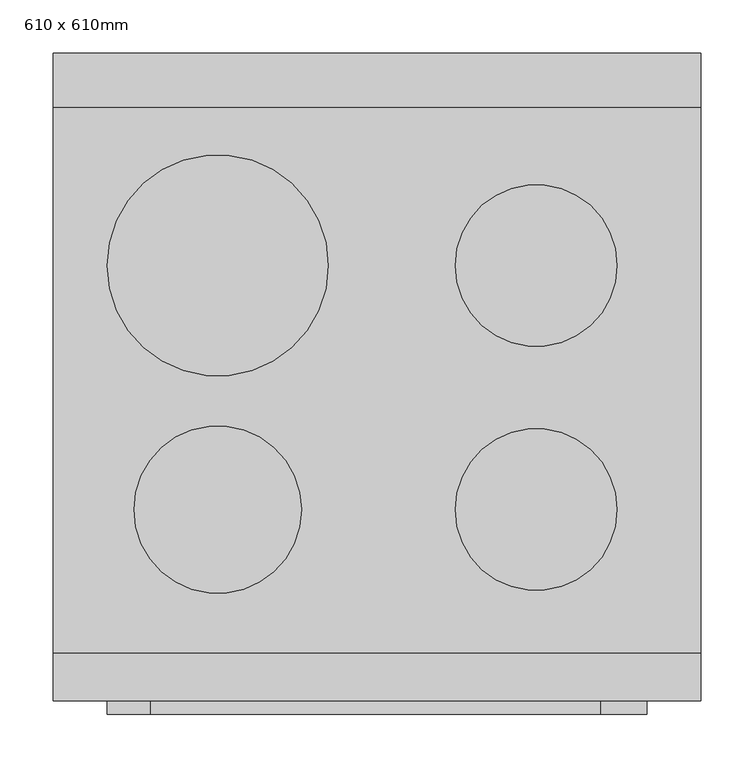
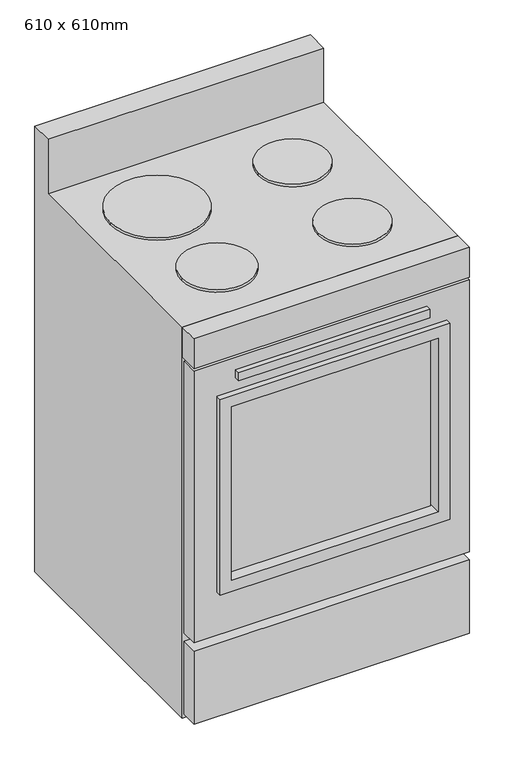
"""IFC4 building model written with IfcOpenShell, lengths in millimetres: proxy geometry, 炉灶 : 610 x 610mm."""

from ifc_helpers import new_model, si_unit, point, frame, frame_2d, origin, place, context, project, spatial, polyline, circle_curve, trimmed, segment, composite_curve, outline, extrude, faceted_brep, source, transform, mapped, element, save


def proxy_610_x_610mm_0f77da38(model_context):
    return source(origin(), model_context, "Body", "SolidModel", [
        faceted_brep([(610.0, 610.0, 1041.4), (610.0, 559.2, 1041.4), (610.0, 559.2, 914.4), (610.0, 45.0, 914.4), (610.0, 45.0, 0.0), (610.0, 610.0, 0.0), (0.0, 559.2, 914.4), (0.0, 559.2, 1041.4), (0.0, 610.0, 1041.4), (0.0, 610.0, 0.0), (0.0, 45.0, 0.0), (0.0, 45.0, 914.4), (584.6, 45.0, 889.2220355), (584.6, 45.0, 254.0), (25.4, 45.0, 254.0), (25.4, 45.0, 889.2220355), (25.4, 584.6, 889.2220355), (584.6, 584.6, 889.2220355), (25.4, 584.6, 254.0), (584.6, 584.6, 254.0)], [[[0, 1, 2, 3, 4, 5]], [[6, 7, 8, 9, 10, 11]], [[8, 0, 5, 9]], [[1, 0, 8, 7]], [[2, 1, 7, 6]], [[3, 11, 10, 4], [12, 13, 14, 15]], [[9, 5, 4, 10]], [[11, 3, 2, 6]], [[12, 15, 16, 17]], [[15, 14, 18, 16]], [[14, 13, 19, 18]], [[13, 12, 17, 19]], [[17, 16, 18, 19]]]),
        extrude(outline(polyline([(515.325, -12.7), (91.687309, -12.7), (91.687309, 0.0), (515.325, 0.0), (515.325, -12.7)])), frame((0.0, 0.0, 791.2768639), z_axis=(0.0, 0.0, 1.0), x_axis=(1.0, 0.0, 0.0)), (0.0, 0.0, 1.0), 19.05),
        extrude(outline(polyline([(531.2, 12.7), (76.2, 12.7), (76.2, 19.05), (531.2, 19.05), (531.2, 12.7)])), frame((0.0, 0.0, 330.2), z_axis=(0.0, 0.0, 1.0), x_axis=(1.0, 0.0, 0.0)), (0.0, 0.0, 1.0), 406.4),
        extrude(outline(polyline([(610.0, 0.0), (0.0, 0.0), (0.0, 45.0), (610.0, 45.0), (610.0, 0.0)])), frame((0.0, 0.0, 844.7720355), z_axis=(0.0, 0.0, 1.0), x_axis=(1.0, 0.0, 0.0)), (0.0, 0.0, 1.0), 69.6279645),
        extrude(outline(polyline([(762.0, 559.2), (762.0, 50.8), (304.8, 50.8), (304.8, 559.2), (762.0, 559.2)]), holes=[polyline([(736.6, 533.8), (330.2, 533.8), (330.2, 76.2), (736.6, 76.2), (736.6, 533.8)])]), frame((0.0, -12.7, 0.0), z_axis=(0.0, 1.0, 0.0), x_axis=(0.0, 0.0, 1.0)), (0.0, 0.0, 1.0), 38.1),
        extrude(outline(composite_curve([segment(trimmed(circle_curve(frame_2d((155.0, 410.0)), 104.2), [point((50.8, 410.0))], [point((259.2, 410.0))], False, "CARTESIAN"), True, "CONTINUOUS"), segment(trimmed(circle_curve(frame_2d((155.0, 410.0)), 104.2), [point((259.2, 410.0))], [point((50.8, 410.0))], False, "CARTESIAN"), True, "CONTINUOUS")], self_intersect=False)), frame((0.0, 0.0, 914.4), z_axis=(0.0, 0.0, 1.0), x_axis=(1.0, 0.0, 0.0)), (0.0, 0.0, 1.0), 6.35),
        extrude(outline(composite_curve([segment(trimmed(circle_curve(frame_2d((455.0, 410.0)), 76.2), [point((378.8, 410.0))], [point((531.2, 410.0))], False, "CARTESIAN"), True, "CONTINUOUS"), segment(trimmed(circle_curve(frame_2d((455.0, 410.0)), 76.2), [point((531.2, 410.0))], [point((378.8, 410.0))], False, "CARTESIAN"), True, "CONTINUOUS")], self_intersect=False)), frame((0.0, 0.0, 914.4), z_axis=(0.0, 0.0, 1.0), x_axis=(1.0, 0.0, 0.0)), (0.0, 0.0, 1.0), 6.35),
        extrude(outline(composite_curve([segment(trimmed(circle_curve(frame_2d((455.0, 180.0)), 76.2), [point((378.8, 180.0))], [point((531.2, 180.0))], False, "CARTESIAN"), True, "CONTINUOUS"), segment(trimmed(circle_curve(frame_2d((455.0, 180.0)), 76.2), [point((531.2, 180.0))], [point((378.8, 180.0))], False, "CARTESIAN"), True, "CONTINUOUS")], self_intersect=False)), frame((0.0, 0.0, 914.4), z_axis=(0.0, 0.0, 1.0), x_axis=(1.0, 0.0, 0.0)), (0.0, 0.0, 1.0), 6.35),
        extrude(outline(composite_curve([segment(trimmed(circle_curve(frame_2d((155.0, 180.0)), 78.8), [point((76.2, 180.0))], [point((233.8, 180.0))], False, "CARTESIAN"), True, "CONTINUOUS"), segment(trimmed(circle_curve(frame_2d((155.0, 180.0)), 78.8), [point((233.8, 180.0))], [point((76.2, 180.0))], False, "CARTESIAN"), True, "CONTINUOUS")], self_intersect=False)), frame((0.0, 0.0, 914.4), z_axis=(0.0, 0.0, 1.0), x_axis=(1.0, 0.0, 0.0)), (0.0, 0.0, 1.0), 6.35),
        extrude(outline(polyline([(838.4220355, 610.0), (838.4220355, 0.0), (203.2, 0.0), (203.2, 610.0), (838.4220355, 610.0)]), holes=[polyline([(762.0, 559.2), (304.8, 559.2), (304.8, 50.8), (762.0, 50.8), (762.0, 559.2)])]), frame((0.0, 0.0, 0.0), z_axis=(0.0, 1.0, 0.0), x_axis=(0.0, 0.0, 1.0)), (0.0, 0.0, 1.0), 38.1),
        extrude(outline(polyline([(610.0, 0.0), (0.0, 0.0), (0.0, 38.1), (610.0, 38.1), (610.0, 0.0)])), frame((0.0, 0.0, 12.7), z_axis=(0.0, 0.0, 1.0), x_axis=(1.0, 0.0, 0.0)), (0.0, 0.0, 1.0), 171.45),
    ])


if __name__ == "__main__":
    model = new_model("IFC4")
    model_context = context("Model", 3, world=origin())
    ifc_project = project(units=[si_unit("LENGTHUNIT", "METRE", prefix="MILLI")], contexts=[model_context])
    site = spatial("IfcSite", under=ifc_project)
    building = spatial("IfcBuilding", under=site)
    placement = place(None, origin())
    proxy_610_x_610mm_shape = proxy_610_x_610mm_0f77da38(model_context)
    element("IfcBuildingElementProxy", 1, Name="炉灶 : 610 x 610mm", ObjectType="炉灶 : 610 x 610mm", at=placement, inside=building, context=model_context, shape_type="MappedRepresentation", body=[
        mapped(proxy_610_x_610mm_shape, transform((0.0, 0.0, 0.0), x_axis=(1.0, 0.0, 0.0), y_axis=(0.0, 1.0, 0.0), z_axis=(0.0, 0.0, 1.0))),
    ])
    save(model, "model.ifc")
